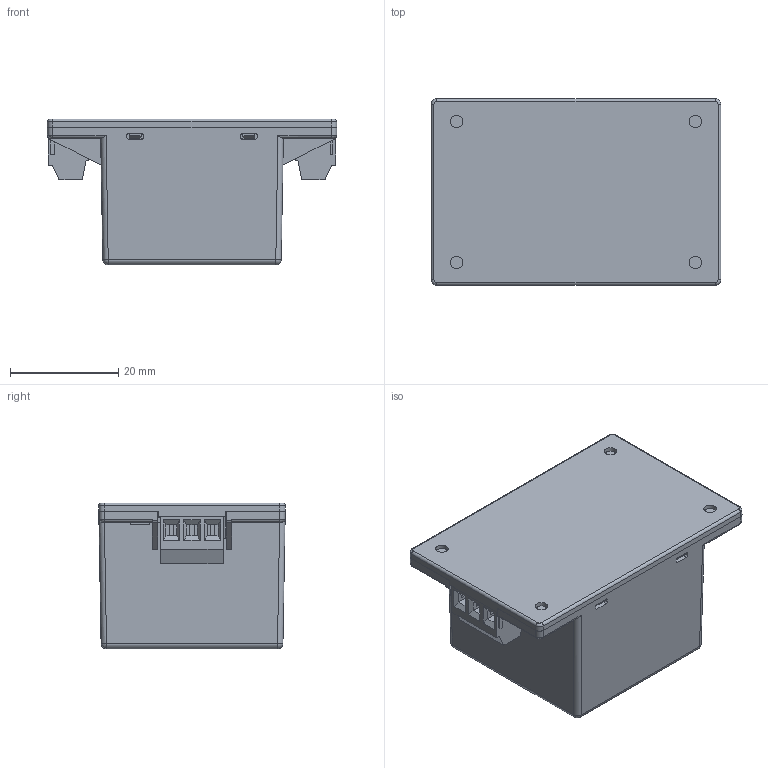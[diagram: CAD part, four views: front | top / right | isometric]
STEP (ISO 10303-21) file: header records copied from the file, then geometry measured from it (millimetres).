
FILE_DESCRIPTION(/* description */ (''),/* implementation_level */ '2;1');
FILE_NAME(/* name */ 'C:\Users\QIU\Desktop\MJA06C-MJWI06C-3D.stp',/* time_stamp */ '2018-02-06T13:11:20+08:00',/* author */ ('QIU'),/* organization */ (''),/* preprocessor_version */ 'ST-DEVELOPER v15.2',/* originating_system */ 'Autodesk Inventor 2014',/* authorisation */ '');
FILE_SCHEMA (('AUTOMOTIVE_DESIGN { 1 0 10303 214 3 1 1 }'));
Length unit declared in the file: millimetre
Products named in the file (4): MJAI06C CASE-3D; MJAI06C BASE-3D; MJAI06C 端子台(ANYTEK); MJA06C-MJWI06C-3D
Bounding box: 53.4 x 34.4 x 26.9 mm (x, y, z)
Volume: 33515.2 mm3; surface area: 13129.9 mm2
Topology: 4 solids, 4 shells, 608 faces, 1602 edges, 1038 vertices
Faces by surface type: plane 465, cylinder 89, bspline 46, sphere 4, cone 4
Full cylindrical faces by diameter (mm): 2.3 x8, 2.5 x6
Entity records: 14758 total; most frequent: CARTESIAN_POINT 3159, ORIENTED_EDGE 2456, DIRECTION 2176, EDGE_CURVE 1226, LINE 970, VECTOR 970, VERTEX_POINT 802, AXIS2_PLACEMENT_3D 603
